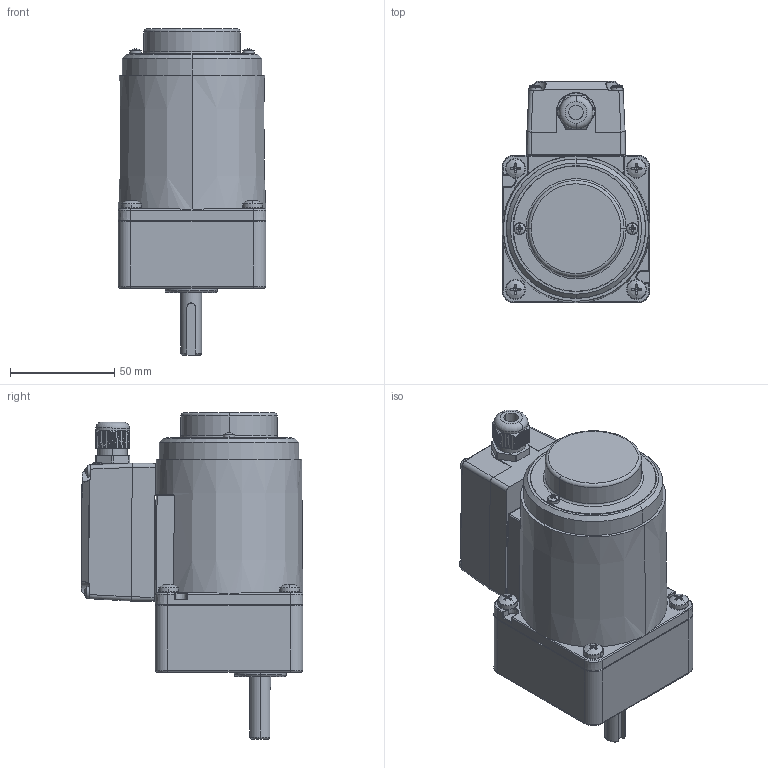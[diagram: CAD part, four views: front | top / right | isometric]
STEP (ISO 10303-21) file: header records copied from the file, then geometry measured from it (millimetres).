
FILE_DESCRIPTION (( 'STEP AP203' ), '1' );
FILE_NAME ('3IK15RGN-CT(3GN3K-18K).STEP', '2023-08-08T03:05:50', ( 'Windows User' ), ( 'P R C' ), 'SwSTEP 2.0', 'SolidWorks 2019', '' );
FILE_SCHEMA (( 'CONFIG_CONTROL_DESIGN' ));
Length unit declared in the file: millimetre
Products named in the file (26): ^__葩璃 (3) __3IK15RGN-CT___3IK15RGN-CT(3GN3K-18K)(2)_3IK15RGN-CT(3GN3K-18K); ^_葩璃 (2) __3IK15RGN-CT___3IK15RGN-CT(3GN3K-18K)(2)_3IK15RGN-CT(3GN3K-18K); ^葩璃 (2) __3IK15RGN-CT___3IK15RGN-CT(3GN3K-18K)(2)_3IK15RGN-CT(3GN3K-18K); ____53^3GN3K-18K_ASM_3GN3K-18K_3IK15RGN-CT(3GN3K-18K)(2)_3IK15RGN-CT(3GN3K-18K); ^____3IK15RGN-CT___3IK15RGN-CT(3GN3K-18K)(2)_3IK15RGN-CT(3GN3K-18K); ^3IK15RGN-CT(3GN3K-18K)(2)_3IK15RGN-CT(3GN3K-18K); 葩璃 (2) ^_葩璃 (3) __3IK15RGN-CT___3IK15RGN-CT(3GN3K-18K)(2)_3IK15RGN-CT(3GN3K-18K); ^_3IK15RGN-CT(3GN3K-18K)(2)_3IK15RGN-CT(3GN3K-18K); ^__3IK15RGN-CT___3IK15RGN-CT(3GN3K-18K)(2)_3IK15RGN-CT(3GN3K-18K); 葩璃 (2) ^_3IK15RGN-CT___3IK15RGN-CT(3GN3K-18K)(2)_3IK15RGN-CT(3GN3K-18K); 葩璃 (2) ^_葩璃 (2) __3IK15RGN-CT___3IK15RGN-CT(3GN3K-18K)(2)_3IK15RGN-CT(3GN3K-18K); ^葩璃 (3) __3IK15RGN-CT___3IK15RGN-CT(3GN3K-18K)(2)_3IK15RGN-CT(3GN3K-18K); 3IK15RGN-CT^__3IK15RGN-CT(3GN3K-18K)(2)_3IK15RGN-CT(3GN3K-18K); ^3IK15RGN-CT___3IK15RGN-CT(3GN3K-18K)(2)_3IK15RGN-CT(3GN3K-18K); ^___3IK15RGN-CT___3IK15RGN-CT(3GN3K-18K)(2)_3IK15RGN-CT(3GN3K-18K); 3IK15RGN-CT(3GN3K-18K)(2)^3IK15RGN-CT(3GN3K-18K); ^_葩璃 (3) __3IK15RGN-CT___3IK15RGN-CT(3GN3K-18K)(2)_3IK15RGN-CT(3GN3K-18K); 3IK15RGN-CT(3GN3K-18K); 葩璃 (3) ^_葩璃 (2) __3IK15RGN-CT___3IK15RGN-CT(3GN3K-18K)(2)_3IK15RGN-CT(3GN3K-18K); PRT0004^3GN3K-18K_ASM_3GN3K-18K_3IK15RGN-CT(3GN3K-18K)(2)_3IK15RGN-CT(3GN3K-18K); 3GN3K-18K_ASM^3GN3K-18K_3IK15RGN-CT(3GN3K-18K)(2)_3IK15RGN-CT(3GN3K-18K); 葩璃 (3) ^_3IK15RGN-CT___3IK15RGN-CT(3GN3K-18K)(2)_3IK15RGN-CT(3GN3K-18K); 3GN3K-18K^3IK15RGN-CT(3GN3K-18K)(2)_3IK15RGN-CT(3GN3K-18K); ^_3IK15RGN-CT___3IK15RGN-CT(3GN3K-18K)(2)_3IK15RGN-CT(3GN3K-18K)
Assembly tree (31 placements, depth 10):
  3IK15RGN-CT(3GN3K-18K)
    3IK15RGN-CT(3GN3K-18K)(2)^3IK15RGN-CT(3GN3K-18K)
      ^3IK15RGN-CT(3GN3K-18K)(2)_3IK15RGN-CT(3GN3K-18K)
        ^_3IK15RGN-CT(3GN3K-18K)(2)_3IK15RGN-CT(3GN3K-18K)
          3IK15RGN-CT^__3IK15RGN-CT(3GN3K-18K)(2)_3IK15RGN-CT(3GN3K-18K)
            ^3IK15RGN-CT___3IK15RGN-CT(3GN3K-18K)(2)_3IK15RGN-CT(3GN3K-18K)
              ^_3IK15RGN-CT___3IK15RGN-CT(3GN3K-18K)(2)_3IK15RGN-CT(3GN3K-18K)
                ^__3IK15RGN-CT___3IK15RGN-CT(3GN3K-18K)(2)_3IK15RGN-CT(3GN3K-18K)
                  ^___3IK15RGN-CT___3IK15RGN-CT(3GN3K-18K)(2)_3IK15RGN-CT(3GN3K-18K)
              葩璃 (2) ^_3IK15RGN-CT___3IK15RGN-CT(3GN3K-18K)(2)_3IK15RGN-CT(3GN3K-18K)
                ^葩璃 (2) __3IK15RGN-CT___3IK15RGN-CT(3GN3K-18K)(2)_3IK15RGN-CT(3GN3K-18K)
                  ^_葩璃 (2) __3IK15RGN-CT___3IK15RGN-CT(3GN3K-18K)(2)_3IK15RGN-CT(3GN3K-18K)
                  葩璃 (2) ^_葩璃 (2) __3IK15RGN-CT___3IK15RGN-CT(3GN3K-18K)(2)_3IK15RGN-CT(3GN3K-18K)
                  葩璃 (3) ^_葩璃 (2) __3IK15RGN-CT___3IK15RGN-CT(3GN3K-18K)(2)_3IK15RGN-CT(3GN3K-18K)  x4
              葩璃 (3) ^_3IK15RGN-CT___3IK15RGN-CT(3GN3K-18K)(2)_3IK15RGN-CT(3GN3K-18K)
                ^葩璃 (3) __3IK15RGN-CT___3IK15RGN-CT(3GN3K-18K)(2)_3IK15RGN-CT(3GN3K-18K)
                  ^_葩璃 (3) __3IK15RGN-CT___3IK15RGN-CT(3GN3K-18K)(2)_3IK15RGN-CT(3GN3K-18K)
                  ^_葩璃 (3) __3IK15RGN-CT___3IK15RGN-CT(3GN3K-18K)(2)_3IK15RGN-CT(3GN3K-18K)
                  葩璃 (2) ^_葩璃 (3) __3IK15RGN-CT___3IK15RGN-CT(3GN3K-18K)(2)_3IK15RGN-CT(3GN3K-18K)
        ^_3IK15RGN-CT(3GN3K-18K)(2)_3IK15RGN-CT(3GN3K-18K)  x4
      3GN3K-18K^3IK15RGN-CT(3GN3K-18K)(2)_3IK15RGN-CT(3GN3K-18K)
        3GN3K-18K_ASM^3GN3K-18K_3IK15RGN-CT(3GN3K-18K)(2)_3IK15RGN-CT(3GN3K-18K)
          PRT0004^3GN3K-18K_ASM_3GN3K-18K_3IK15RGN-CT(3GN3K-18K)(2)_3IK15RGN-CT(3GN3K-18K)
          ____53^3GN3K-18K_ASM_3GN3K-18K_3IK15RGN-CT(3GN3K-18K)(2)_3IK15RGN-CT(3GN3K-18K)
Bounding box: 70.8 x 106.23 x 156.25 mm (x, y, z)
Volume: 581941.3 mm3; surface area: 84841.5 mm2
Topology: 16 solids, 16 shells, 2053 faces, 5309 edges, 3286 vertices
Faces by surface type: cone 892, cylinder 664, plane 332, torus 112, sphere 30, bspline 23
Entity records: 44552 total; most frequent: CARTESIAN_POINT 13681, DIRECTION 6231, ORIENTED_EDGE 5796, EDGE_CURVE 2898, AXIS2_PLACEMENT_3D 2603, VERTEX_POINT 1818, CIRCLE 1434, EDGE_LOOP 1210
